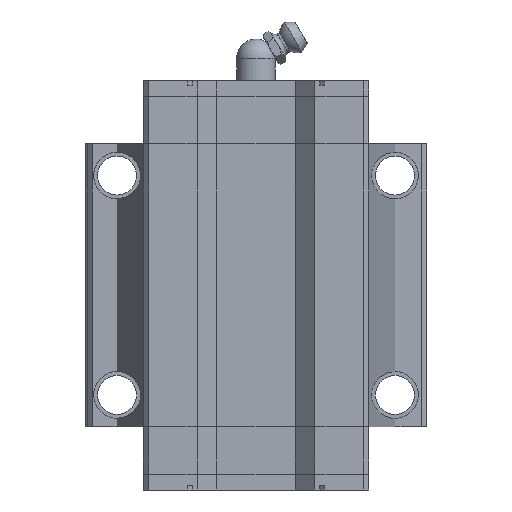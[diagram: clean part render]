
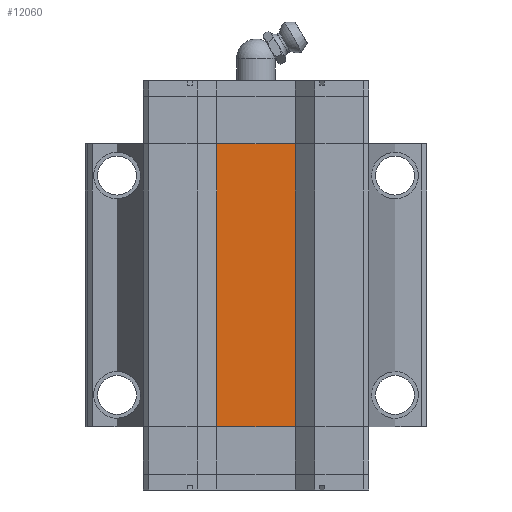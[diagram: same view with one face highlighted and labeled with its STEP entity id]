
A CAD part, front view. The second image highlights one B-rep face of the part: STEP entity #12060.
In plain terms, the highlighted planar face has unit normal (0, -1, 0).
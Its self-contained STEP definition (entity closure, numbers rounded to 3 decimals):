
#458 = ORIENTED_EDGE ( 'NONE', *, *, #8795, .T. ) ;
#459 = ORIENTED_EDGE ( 'NONE', *, *, #8689, .F. ) ;
#460 = ORIENTED_EDGE ( 'NONE', *, *, #8773, .F. ) ;
#461 = ORIENTED_EDGE ( 'NONE', *, *, #8675, .F. ) ;
#4739 = LINE ( 'NONE', #5302, #4742 ) ;
#4742 = VECTOR ( 'NONE', #5304, 1000. ) ;
#4751 = LINE ( 'NONE', #5314, #4755 ) ;
#4755 = VECTOR ( 'NONE', #5316, 1000. ) ;
#4890 = LINE ( 'NONE', #5467, #4892 ) ;
#4892 = VECTOR ( 'NONE', #5468, 1000. ) ;
#4932 = LINE ( 'NONE', #5519, #4935 ) ;
#4935 = VECTOR ( 'NONE', #5515, 1000. ) ;
#5302 = CARTESIAN_POINT ( 'NONE',  ( -8.056, 16.4, -38.75 ) ) ;
#5304 = DIRECTION ( 'NONE',  ( 0., 0., 1. ) ) ;
#5314 = CARTESIAN_POINT ( 'NONE',  ( 8.056, 16.4, -38.75 ) ) ;
#5316 = DIRECTION ( 'NONE',  ( 0., 0., -1. ) ) ;
#5467 = CARTESIAN_POINT ( 'NONE',  ( 8.056, 16.4, 29. ) ) ;
#5468 = DIRECTION ( 'NONE',  ( 1., 0., 0. ) ) ;
#5515 = DIRECTION ( 'NONE',  ( 1., 0., 0. ) ) ;
#5519 = CARTESIAN_POINT ( 'NONE',  ( 35., 16.4, -29. ) ) ;
#7575 = CARTESIAN_POINT ( 'NONE',  ( 8.056, 16.4, -38.75 ) ) ;
#7580 = PLANE ( 'NONE',  #9778 ) ;
#7583 = DIRECTION ( 'NONE',  ( 0., 1., 0. ) ) ;
#7584 = DIRECTION ( 'NONE',  ( 0., 0., 1. ) ) ;
#8072 = CARTESIAN_POINT ( 'NONE',  ( 8.056, 16.4, -29. ) ) ;
#8076 = CARTESIAN_POINT ( 'NONE',  ( -8.056, 16.4, -29. ) ) ;
#8675 = EDGE_CURVE ( 'NONE', #12575, #11557, #4739, .T. ) ;
#8689 = EDGE_CURVE ( 'NONE', #11559, #12571, #4751, .T. ) ;
#8773 = EDGE_CURVE ( 'NONE', #11557, #11559, #4890, .T. ) ;
#8795 = EDGE_CURVE ( 'NONE', #12575, #12571, #4932, .T. ) ;
#8845 = FACE_OUTER_BOUND ( 'NONE', #11556, .T. ) ;
#9571 = CARTESIAN_POINT ( 'NONE',  ( -8.056, 16.4, 29. ) ) ;
#9572 = CARTESIAN_POINT ( 'NONE',  ( 8.056, 16.4, 29. ) ) ;
#9778 = AXIS2_PLACEMENT_3D ( 'NONE', #7575, #7583, #7584 ) ;
#11556 = EDGE_LOOP ( 'NONE', ( #458, #459, #460, #461 ) ) ;
#11557 = VERTEX_POINT ( 'NONE', #9571 ) ;
#11559 = VERTEX_POINT ( 'NONE', #9572 ) ;
#12060 = ADVANCED_FACE ( 'NONE', ( #8845 ), #7580, .F. ) ;
#12571 = VERTEX_POINT ( 'NONE', #8072 ) ;
#12575 = VERTEX_POINT ( 'NONE', #8076 ) ;
